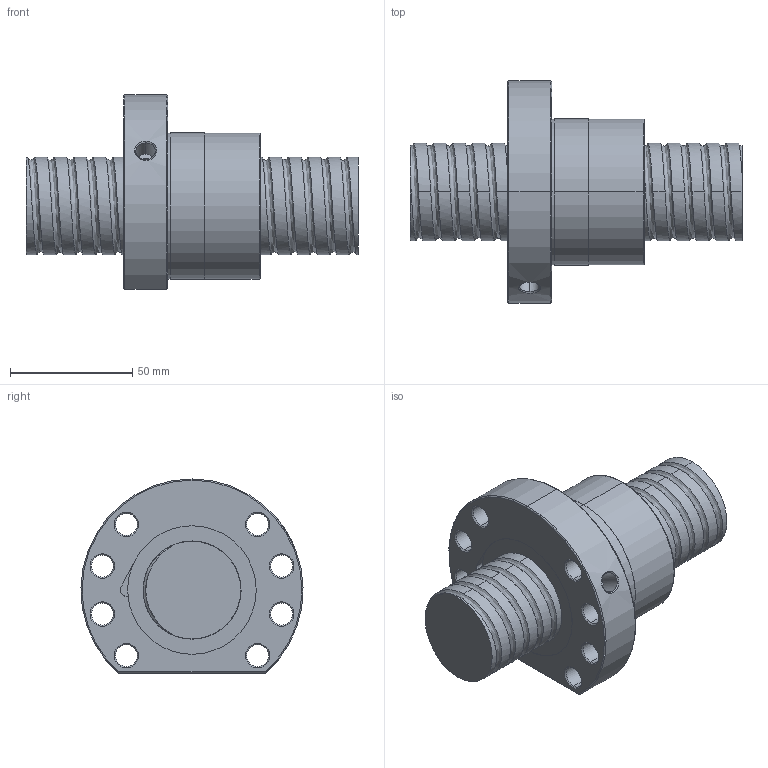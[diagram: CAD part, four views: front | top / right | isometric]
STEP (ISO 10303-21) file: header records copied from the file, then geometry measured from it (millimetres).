
FILE_DESCRIPTION (( 'STEP AP214' ), '1' );
FILE_NAME ('FSDC04008T4-D-B.STEP', '2010-06-25T12:05:03', ( 'XPAUTO' ), ( 'XPAUTO' ), 'SwSTEP 2.0', 'SolidWorks 2007', '' );
FILE_SCHEMA (( 'AUTOMOTIVE_DESIGN' ));
Length unit declared in the file: millimetre
Products named in the file (3): FSDC04008T4-D-B; FSDC04008T4-D-B.sldasm-Part-2_預設; FSDC04008T4-D-B.sldasm-Part-1_預設
Assembly tree (2 placements, depth 2):
  FSDC04008T4-D-B
    FSDC04008T4-D-B.sldasm-Part-1_預設
    FSDC04008T4-D-B.sldasm-Part-2_預設
Bounding box: 136 x 90.98 x 79.5 mm (x, y, z)
Volume: 299969.1 mm3; surface area: 53869.8 mm2
Topology: 2 solids, 2 shells, 140 faces, 349 edges, 218 vertices
Faces by surface type: cylinder 79, cone 32, plane 19, bspline 5, torus 5
Entity records: 26490 total; most frequent: CARTESIAN_POINT 23133, ORIENTED_EDGE 698, DIRECTION 663, EDGE_CURVE 349, AXIS2_PLACEMENT_3D 270, VERTEX_POINT 218, EDGE_LOOP 165, ADVANCED_FACE 140
